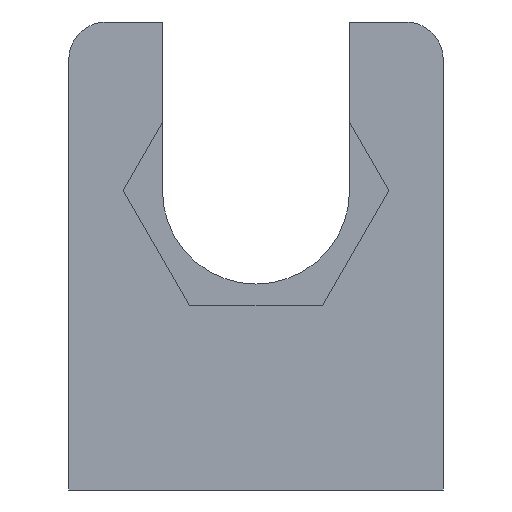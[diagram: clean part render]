
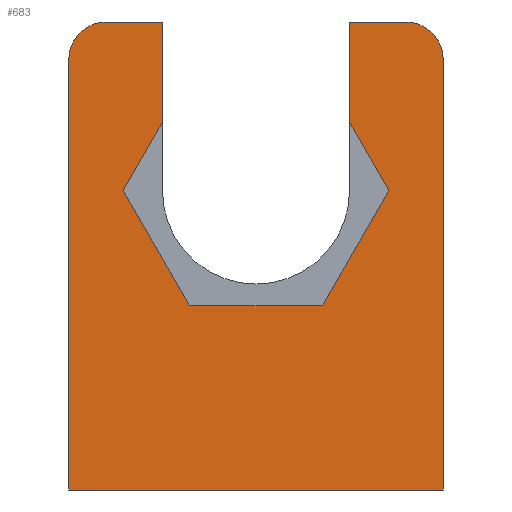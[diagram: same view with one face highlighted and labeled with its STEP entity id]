
A CAD part, front view. The second image highlights one B-rep face of the part: STEP entity #683.
In plain terms, the highlighted planar face has unit normal (0, -1, 0).
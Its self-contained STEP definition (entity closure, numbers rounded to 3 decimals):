
#158=CIRCLE('',#737,2.);
#159=CIRCLE('',#738,2.);
#180=FACE_OUTER_BOUND('',#209,.T.);
#209=EDGE_LOOP('',(#519,#520,#521,#522,#523,#524,#525,#526,#527,#528,#529,
#530,#531,#532));
#240=LINE('',#989,#297);
#242=LINE('',#995,#299);
#245=LINE('',#1001,#302);
#248=LINE('',#1007,#305);
#251=LINE('',#1012,#308);
#255=LINE('',#1022,#312);
#256=LINE('',#1024,#313);
#257=LINE('',#1028,#314);
#258=LINE('',#1030,#315);
#259=LINE('',#1032,#316);
#260=LINE('',#1036,#317);
#261=LINE('',#1037,#318);
#297=VECTOR('',#800,10.);
#299=VECTOR('',#804,10.);
#302=VECTOR('',#809,10.);
#305=VECTOR('',#814,10.);
#308=VECTOR('',#819,10.);
#312=VECTOR('',#829,10.);
#313=VECTOR('',#830,10.);
#314=VECTOR('',#833,10.);
#315=VECTOR('',#834,10.);
#316=VECTOR('',#835,10.);
#317=VECTOR('',#838,10.);
#318=VECTOR('',#839,10.);
#352=VERTEX_POINT('',#983);
#354=VERTEX_POINT('',#987);
#355=VERTEX_POINT('',#991);
#357=VERTEX_POINT('',#994);
#359=VERTEX_POINT('',#1000);
#361=VERTEX_POINT('',#1006);
#365=VERTEX_POINT('',#1021);
#366=VERTEX_POINT('',#1023);
#367=VERTEX_POINT('',#1025);
#368=VERTEX_POINT('',#1027);
#369=VERTEX_POINT('',#1029);
#370=VERTEX_POINT('',#1031);
#371=VERTEX_POINT('',#1033);
#372=VERTEX_POINT('',#1035);
#410=EDGE_CURVE('',#352,#354,#240,.T.);
#412=EDGE_CURVE('',#357,#355,#242,.T.);
#415=EDGE_CURVE('',#359,#357,#245,.T.);
#418=EDGE_CURVE('',#361,#359,#248,.T.);
#421=EDGE_CURVE('',#354,#361,#251,.T.);
#426=EDGE_CURVE('',#365,#355,#255,.T.);
#427=EDGE_CURVE('',#366,#365,#256,.T.);
#428=EDGE_CURVE('',#367,#366,#158,.T.);
#429=EDGE_CURVE('',#368,#367,#257,.T.);
#430=EDGE_CURVE('',#369,#368,#258,.T.);
#431=EDGE_CURVE('',#370,#369,#259,.T.);
#432=EDGE_CURVE('',#371,#370,#159,.T.);
#433=EDGE_CURVE('',#372,#371,#260,.T.);
#434=EDGE_CURVE('',#352,#372,#261,.T.);
#519=ORIENTED_EDGE('',*,*,#410,.T.);
#520=ORIENTED_EDGE('',*,*,#421,.T.);
#521=ORIENTED_EDGE('',*,*,#418,.T.);
#522=ORIENTED_EDGE('',*,*,#415,.T.);
#523=ORIENTED_EDGE('',*,*,#412,.T.);
#524=ORIENTED_EDGE('',*,*,#426,.F.);
#525=ORIENTED_EDGE('',*,*,#427,.F.);
#526=ORIENTED_EDGE('',*,*,#428,.F.);
#527=ORIENTED_EDGE('',*,*,#429,.F.);
#528=ORIENTED_EDGE('',*,*,#430,.F.);
#529=ORIENTED_EDGE('',*,*,#431,.F.);
#530=ORIENTED_EDGE('',*,*,#432,.F.);
#531=ORIENTED_EDGE('',*,*,#433,.F.);
#532=ORIENTED_EDGE('',*,*,#434,.F.);
#665=PLANE('',#736);
#683=ADVANCED_FACE('',(#180),#665,.F.);
#736=AXIS2_PLACEMENT_3D('',#1020,#827,#828);
#737=AXIS2_PLACEMENT_3D('',#1026,#831,#832);
#738=AXIS2_PLACEMENT_3D('',#1034,#836,#837);
#800=DIRECTION('',(0.5,0.,-0.866));
#804=DIRECTION('',(0.5,0.,0.866));
#809=DIRECTION('',(-0.5,0.,0.866));
#814=DIRECTION('',(-1.,0.,0.));
#819=DIRECTION('',(-0.5,0.,-0.866));
#827=DIRECTION('center_axis',(0.,1.,0.));
#828=DIRECTION('ref_axis',(0.,0.,1.));
#829=DIRECTION('',(0.,0.,-1.));
#830=DIRECTION('',(1.,0.,0.));
#831=DIRECTION('center_axis',(0.,1.,0.));
#832=DIRECTION('ref_axis',(-0.707,0.,0.707));
#833=DIRECTION('',(0.,0.,1.));
#834=DIRECTION('',(-1.,0.,0.));
#835=DIRECTION('',(0.,0.,-1.));
#836=DIRECTION('center_axis',(0.,1.,0.));
#837=DIRECTION('ref_axis',(0.707,0.,0.707));
#838=DIRECTION('',(1.,0.,0.));
#839=DIRECTION('',(0.,0.,1.));
#983=CARTESIAN_POINT('',(5.,0.,3.64));
#987=CARTESIAN_POINT('',(7.101,0.,0.));
#989=CARTESIAN_POINT('',(6.17,0.,1.613));
#991=CARTESIAN_POINT('',(-5.,0.,3.64));
#994=CARTESIAN_POINT('',(-7.101,0.,0.));
#995=CARTESIAN_POINT('',(-7.946,0.,-1.463));
#1000=CARTESIAN_POINT('',(-3.551,0.,-6.15));
#1001=CARTESIAN_POINT('',(-2.706,0.,-7.613));
#1006=CARTESIAN_POINT('',(3.551,0.,-6.15));
#1007=CARTESIAN_POINT('',(1.775,0.,-6.15));
#1012=CARTESIAN_POINT('',(4.482,0.,-4.538));
#1020=CARTESIAN_POINT('Origin',(0.,0.,-8.));
#1021=CARTESIAN_POINT('',(-5.,0.,9.));
#1022=CARTESIAN_POINT('',(-5.,0.,9.));
#1023=CARTESIAN_POINT('',(-8.,0.,9.));
#1024=CARTESIAN_POINT('',(-10.,0.,9.));
#1025=CARTESIAN_POINT('',(-10.,0.,7.));
#1026=CARTESIAN_POINT('Origin',(-8.,0.,7.));
#1027=CARTESIAN_POINT('',(-10.,0.,-16.));
#1028=CARTESIAN_POINT('',(-10.,0.,-16.));
#1029=CARTESIAN_POINT('',(10.,0.,-16.));
#1030=CARTESIAN_POINT('',(10.,0.,-16.));
#1031=CARTESIAN_POINT('',(10.,0.,7.));
#1032=CARTESIAN_POINT('',(10.,0.,16.));
#1033=CARTESIAN_POINT('',(8.,0.,9.));
#1034=CARTESIAN_POINT('Origin',(8.,0.,7.));
#1035=CARTESIAN_POINT('',(5.,0.,9.));
#1036=CARTESIAN_POINT('',(-10.,0.,9.));
#1037=CARTESIAN_POINT('',(5.,0.,0.));
